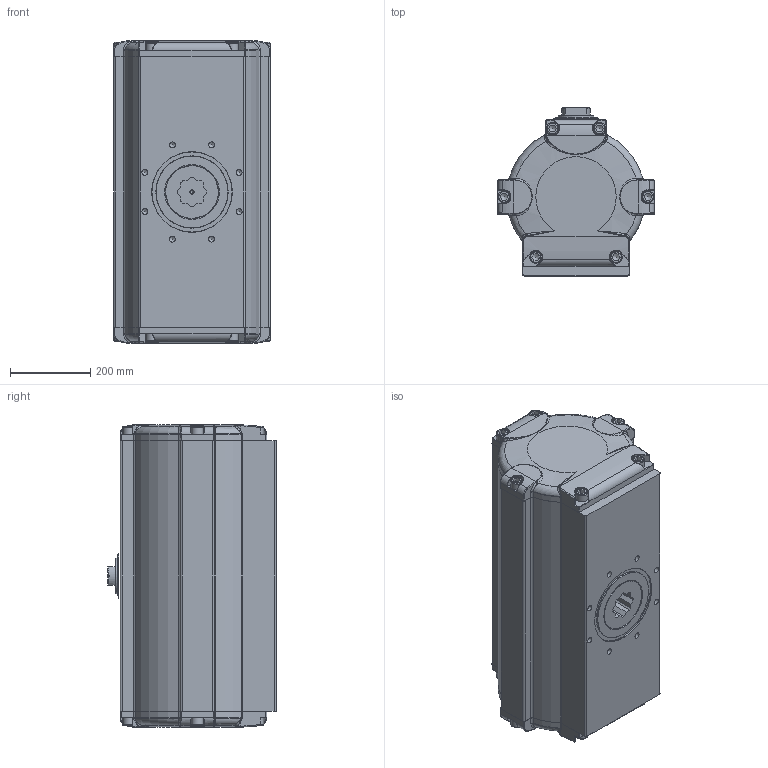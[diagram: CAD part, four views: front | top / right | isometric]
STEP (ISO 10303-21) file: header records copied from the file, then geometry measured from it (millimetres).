
FILE_DESCRIPTION((''),'2;1');
FILE_NAME('C:\Dokumente und Einstellungen\ko-p\Desktop\SAD_50-135°_BR03.stp','2011-02-02T12:30:39',('war'),(''),'Autodesk Inventor 2010','Autodesk Inventor 2010','');
FILE_SCHEMA(('AUTOMOTIVE_DESIGN { 1 0 10303 214 1 1 1 1 }'));
Length unit declared in the file: millimetre
Products named in the file (1): ENG-051260_Konturvereinfachung_1
Bounding box: 390 x 418 x 752 mm (x, y, z)
Surface area: 1423106.9 mm2 (no closed solid volume)
Topology: 0 solids, 47 shells, 505 faces, 2033 edges, 1511 vertices
Faces by surface type: plane 209, bspline 131, cylinder 112, torus 41, cone 12
Full cylindrical faces by diameter (mm): 30 x12, 70 x1, 89.6 x1, 130 x1, 179 x1, 200 x1
Entity records: 30736 total; most frequent: CARTESIAN_POINT 15560, ORIENTED_EDGE 2787, DIRECTION 2591, EDGE_CURVE 1897, VERTEX_POINT 1454, AXIS2_PLACEMENT_3D 981, EDGE_LOOP 635, VECTOR 629
